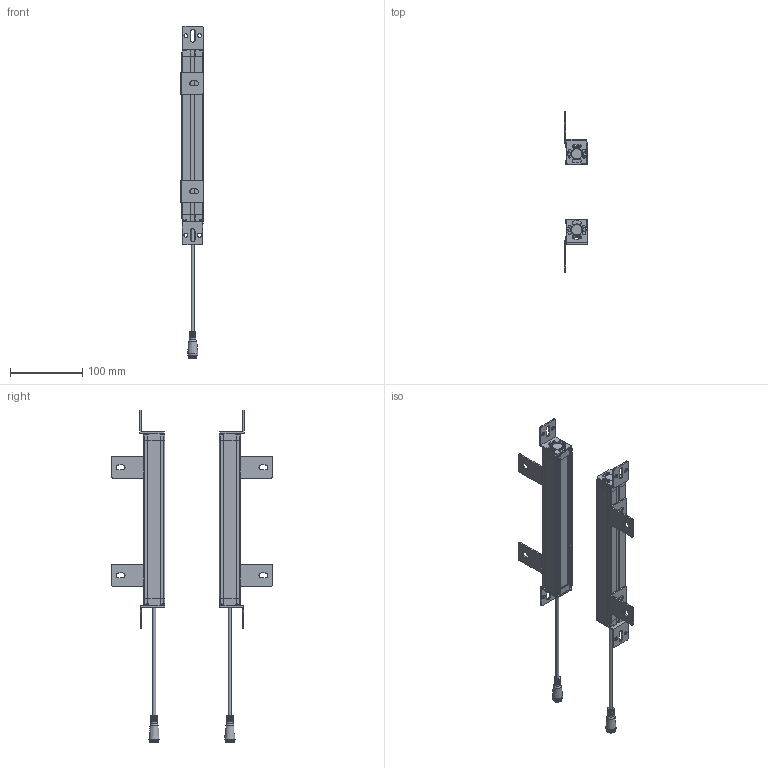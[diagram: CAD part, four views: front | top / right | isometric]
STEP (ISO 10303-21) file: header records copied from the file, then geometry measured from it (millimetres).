
FILE_DESCRIPTION(/* description */ (''),/* implementation_level */ '2;1');
FILE_NAME(/* name */ '2210（29x30）.stp',/* time_stamp */ '2023-04-28T15:43:05+08:00',/* author */ (''),/* organization */ (''),/* preprocessor_version */ 'ST-DEVELOPER v16.7',/* originating_system */ 'SIEMENS PLM Software NX 12.0',/* authorisation */ '');
FILE_SCHEMA (('AUTOMOTIVE_DESIGN { 1 0 10303 214 3 1 1 1 }'));
Products named in the file (1): 7220（29x30）_stp
Bounding box: 32.03 x 223.99 x 461 mm (x, y, z)
Volume: 185192.6 mm3; surface area: 195443.1 mm2
Topology: 34 solids, 34 shells, 1610 faces, 4267 edges, 2771 vertices
Faces by surface type: plane 750, cylinder 648, bspline 88, sphere 36, cone 36, torus 32, extrusion 20
Full cylindrical faces by diameter (mm): 1.533 x6, 4.4 x4, 9 x2, 12.5 x2
Entity records: 56427 total; most frequent: CARTESIAN_POINT 16064, DIRECTION 8330, ORIENTED_EDGE 8324, EDGE_CURVE 4162, AXIS2_PLACEMENT_3D 2918, VERTEX_POINT 2696, VECTOR 2494, LINE 2474
